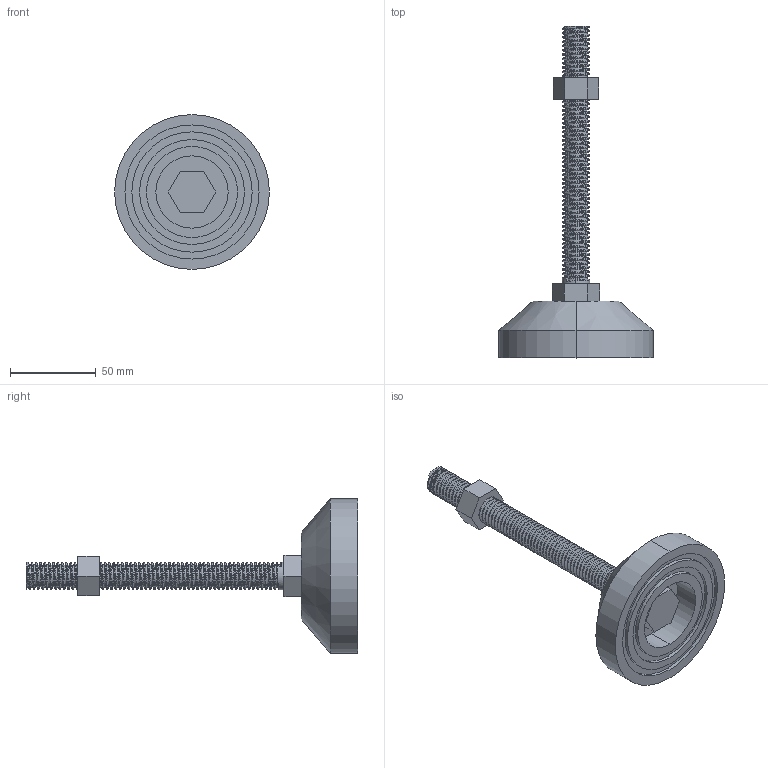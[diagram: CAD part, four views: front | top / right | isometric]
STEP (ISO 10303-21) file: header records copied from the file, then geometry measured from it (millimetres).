
FILE_DESCRIPTION (( 'STEP AP203' ), '1' );
FILE_NAME ('F-107-5-L2.STEP', '2015-11-23T08:55:05', ( '' ), ( '' ), 'SwSTEP 2.0', 'SolidWorks 2014', '' );
FILE_SCHEMA (( 'CONFIG_CONTROL_DESIGN' ));
Length unit declared in the file: millimetre
Products named in the file (1): F-107-5-L2
Bounding box: 90 x 193 x 90 mm (x, y, z)
Volume: 183867.7 mm3; surface area: 38192.9 mm2
Topology: 2 solids, 2 shells, 168 faces, 466 edges, 310 vertices
Faces by surface type: cylinder 131, plane 32, bspline 3, cone 2
Entity records: 12201 total; most frequent: CARTESIAN_POINT 8520, ORIENTED_EDGE 932, DIRECTION 587, EDGE_CURVE 466, VERTEX_POINT 310, AXIS2_PLACEMENT_3D 196, VECTOR 195, LINE 195
